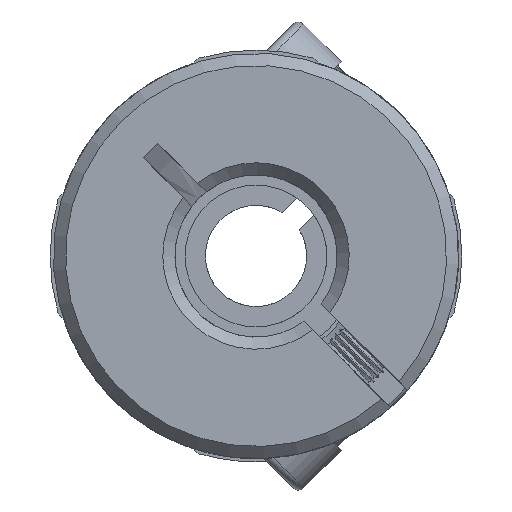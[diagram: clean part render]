
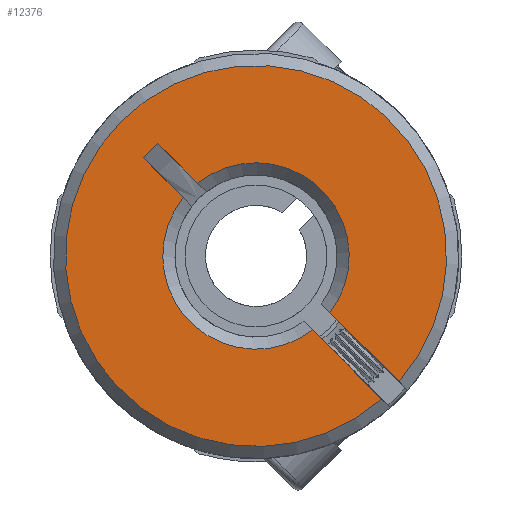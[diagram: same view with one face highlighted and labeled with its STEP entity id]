
A CAD part, front view. The second image highlights one B-rep face of the part: STEP entity #12376.
In plain terms, the highlighted planar face has unit normal (0, -1, 0).
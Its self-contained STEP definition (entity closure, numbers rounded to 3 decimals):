
#54 = VERTEX_POINT ( 'NONE', #10086 ) ;
#82 = EDGE_CURVE ( 'NONE', #1284, #5074, #12218, .T. ) ;
#158 = LINE ( 'NONE', #8925, #6051 ) ;
#186 = VERTEX_POINT ( 'NONE', #10607 ) ;
#374 = DIRECTION ( 'NONE',  ( 0.707, 0., -0.707 ) ) ;
#426 = EDGE_CURVE ( 'NONE', #1284, #186, #4015, .T. ) ;
#490 = DIRECTION ( 'NONE',  ( 0.707, 0., -0.707 ) ) ;
#642 = VECTOR ( 'NONE', #3436, 1000. ) ;
#674 = AXIS2_PLACEMENT_3D ( 'NONE', #9197, #3086, #6122 ) ;
#735 = VECTOR ( 'NONE', #9495, 1000. ) ;
#840 = VECTOR ( 'NONE', #1627, 1000. ) ;
#1096 = ORIENTED_EDGE ( 'NONE', *, *, #82, .F. ) ;
#1194 = CARTESIAN_POINT ( 'NONE',  ( 7.058, -12.6, -6.209 ) ) ;
#1284 = VERTEX_POINT ( 'NONE', #1194 ) ;
#1585 = CARTESIAN_POINT ( 'NONE',  ( 3.221, -12.6, -2.372 ) ) ;
#1627 = DIRECTION ( 'NONE',  ( -0.707, 0., 0.707 ) ) ;
#2460 = DIRECTION ( 'NONE',  ( 0.707, 0., -0.707 ) ) ;
#2528 = DIRECTION ( 'NONE',  ( 0., 1., 0. ) ) ;
#3086 = DIRECTION ( 'NONE',  ( 0., 1., 0. ) ) ;
#3221 = DIRECTION ( 'NONE',  ( 0.707, 0., -0.707 ) ) ;
#3227 = AXIS2_PLACEMENT_3D ( 'NONE', #10523, #2528, #374 ) ;
#3436 = DIRECTION ( 'NONE',  ( 0.707, 0., -0.707 ) ) ;
#3578 = VERTEX_POINT ( 'NONE', #11765 ) ;
#3764 = ORIENTED_EDGE ( 'NONE', *, *, #7632, .T. ) ;
#4015 = CIRCLE ( 'NONE', #10688, 9.4 ) ;
#4176 = CARTESIAN_POINT ( 'NONE',  ( -2.88, -12.6, 3.587 ) ) ;
#4197 = VERTEX_POINT ( 'NONE', #4176 ) ;
#4353 = VECTOR ( 'NONE', #3221, 1000. ) ;
#4451 = EDGE_CURVE ( 'NONE', #4197, #5074, #10872, .T. ) ;
#4650 = DIRECTION ( 'NONE',  ( 0., 1., 0. ) ) ;
#4713 = EDGE_CURVE ( 'NONE', #6427, #12508, #12432, .T. ) ;
#4829 = LINE ( 'NONE', #10218, #4353 ) ;
#5074 = VERTEX_POINT ( 'NONE', #9053 ) ;
#5256 = CARTESIAN_POINT ( 'NONE',  ( -5.549, -12.6, 4.842 ) ) ;
#5805 = AXIS2_PLACEMENT_3D ( 'NONE', #8536, #4650, #490 ) ;
#6051 = VECTOR ( 'NONE', #7018, 1000. ) ;
#6122 = DIRECTION ( 'NONE',  ( 0.707, 0., -0.707 ) ) ;
#6427 = VERTEX_POINT ( 'NONE', #8876 ) ;
#6502 = CIRCLE ( 'NONE', #3227, 4.6 ) ;
#6808 = LINE ( 'NONE', #7484, #642 ) ;
#7018 = DIRECTION ( 'NONE',  ( 0.707, 0., -0.707 ) ) ;
#7188 = EDGE_LOOP ( 'NONE', ( #10915, #9021, #1096, #12527, #9236, #3764, #12128, #7858 ) ) ;
#7468 = CARTESIAN_POINT ( 'NONE',  ( -4.842, -12.6, 5.549 ) ) ;
#7484 = CARTESIAN_POINT ( 'NONE',  ( 4.95, -12.6, -5.657 ) ) ;
#7528 = EDGE_CURVE ( 'NONE', #6427, #4197, #158, .T. ) ;
#7632 = EDGE_CURVE ( 'NONE', #3578, #54, #6502, .T. ) ;
#7858 = ORIENTED_EDGE ( 'NONE', *, *, #4713, .F. ) ;
#8536 = CARTESIAN_POINT ( 'NONE',  ( 0., -12.6, 0. ) ) ;
#8546 = EDGE_CURVE ( 'NONE', #12508, #54, #6808, .T. ) ;
#8876 = CARTESIAN_POINT ( 'NONE',  ( -4.842, -12.6, 5.549 ) ) ;
#8925 = CARTESIAN_POINT ( 'NONE',  ( 5.657, -12.6, -4.95 ) ) ;
#9021 = ORIENTED_EDGE ( 'NONE', *, *, #4451, .T. ) ;
#9053 = CARTESIAN_POINT ( 'NONE',  ( 3.649, -12.6, -2.801 ) ) ;
#9197 = CARTESIAN_POINT ( 'NONE',  ( 342.528, -12.6, 364.579 ) ) ;
#9236 = ORIENTED_EDGE ( 'NONE', *, *, #10912, .F. ) ;
#9495 = DIRECTION ( 'NONE',  ( -0.707, 0., -0.707 ) ) ;
#10000 = PLANE ( 'NONE',  #674 ) ;
#10086 = CARTESIAN_POINT ( 'NONE',  ( -3.587, -12.6, 2.88 ) ) ;
#10218 = CARTESIAN_POINT ( 'NONE',  ( 2.372, -12.6, -3.221 ) ) ;
#10523 = CARTESIAN_POINT ( 'NONE',  ( 0., -12.6, 0. ) ) ;
#10607 = CARTESIAN_POINT ( 'NONE',  ( 6.209, -12.6, -7.058 ) ) ;
#10688 = AXIS2_PLACEMENT_3D ( 'NONE', #11460, #12485, #2460 ) ;
#10836 = FACE_OUTER_BOUND ( 'NONE', #7188, .T. ) ;
#10872 = CIRCLE ( 'NONE', #5805, 4.6 ) ;
#10912 = EDGE_CURVE ( 'NONE', #3578, #186, #4829, .T. ) ;
#10915 = ORIENTED_EDGE ( 'NONE', *, *, #7528, .T. ) ;
#11460 = CARTESIAN_POINT ( 'NONE',  ( 0., -12.6, 0. ) ) ;
#11765 = CARTESIAN_POINT ( 'NONE',  ( 2.801, -12.6, -3.649 ) ) ;
#12128 = ORIENTED_EDGE ( 'NONE', *, *, #8546, .F. ) ;
#12218 = LINE ( 'NONE', #1585, #840 ) ;
#12376 = ADVANCED_FACE ( 'NONE', ( #10836 ), #10000, .F. ) ;
#12432 = LINE ( 'NONE', #7468, #735 ) ;
#12485 = DIRECTION ( 'NONE',  ( 0., -1., 0. ) ) ;
#12508 = VERTEX_POINT ( 'NONE', #5256 ) ;
#12527 = ORIENTED_EDGE ( 'NONE', *, *, #426, .T. ) ;
